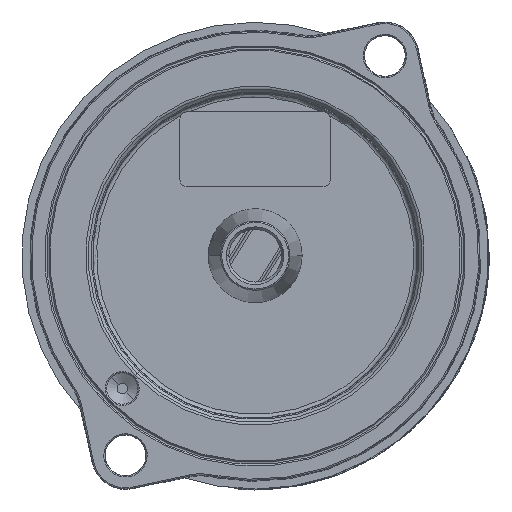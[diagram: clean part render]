
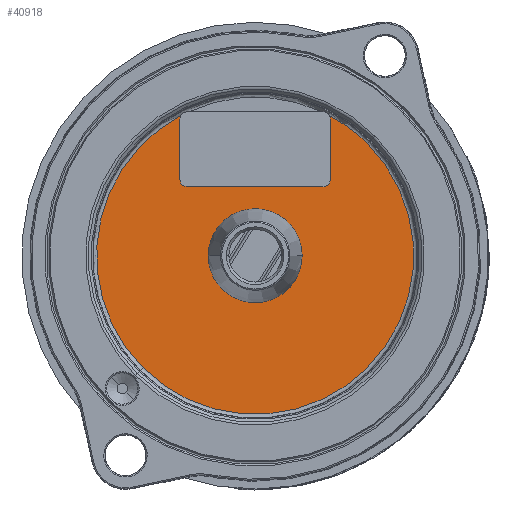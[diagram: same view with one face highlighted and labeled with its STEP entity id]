
A CAD part, front view. The second image highlights one B-rep face of the part: STEP entity #40918.
In plain terms, the highlighted planar face has unit normal (0, -1, 0).
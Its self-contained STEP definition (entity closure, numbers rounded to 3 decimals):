
#64=CARTESIAN_POINT('',(0.,-3.25,0.));
#65=DIRECTION('',(0.,1.,0.));
#66=DIRECTION('',(-1.,0.,0.));
#67=AXIS2_PLACEMENT_3D('',#64,#65,#66);
#69=DIRECTION('',(0.,0.,1.));
#70=VECTOR('',#69,4.8);
#71=CARTESIAN_POINT('',(-6.,-3.25,6.1));
#72=LINE('',#71,#70);
#73=CARTESIAN_POINT('',(-5.4,-3.25,6.1));
#74=DIRECTION('',(0.,-1.,0.));
#75=DIRECTION('',(-1.,0.,0.));
#76=AXIS2_PLACEMENT_3D('',#73,#74,#75);
#78=DIRECTION('',(-1.,0.,0.));
#79=VECTOR('',#78,10.8);
#80=CARTESIAN_POINT('',(5.4,-3.25,5.5));
#81=LINE('',#80,#79);
#82=CARTESIAN_POINT('',(5.4,-3.25,6.1));
#83=DIRECTION('',(0.,-1.,0.));
#84=DIRECTION('',(0.,0.,-1.));
#85=AXIS2_PLACEMENT_3D('',#82,#83,#84);
#87=DIRECTION('',(0.,0.,-1.));
#88=VECTOR('',#87,4.8);
#89=CARTESIAN_POINT('',(6.,-3.25,10.9));
#90=LINE('',#89,#88);
#91=CARTESIAN_POINT('',(5.4,-3.25,10.9));
#92=DIRECTION('',(0.,-1.,0.));
#93=DIRECTION('',(1.,0.,0.));
#94=AXIS2_PLACEMENT_3D('',#91,#92,#93);
#96=CARTESIAN_POINT('',(0.,-3.25,
0.));
#97=DIRECTION('',(0.,-1.,0.));
#98=DIRECTION('',(0.707,0.,0.707));
#99=AXIS2_PLACEMENT_3D('',#96,#97,#98);
#101=CARTESIAN_POINT('',(0.,-3.25,
0.));
#102=DIRECTION('',(0.,-1.,0.));
#103=DIRECTION('',(-0.707,0.,-0.707));
#104=AXIS2_PLACEMENT_3D('',#101,#102,#103);
#106=CARTESIAN_POINT('',(0.,-3.25,
0.));
#107=DIRECTION('',(0.,-1.,0.));
#108=DIRECTION('',(-0.469,0.,0.883));
#109=AXIS2_PLACEMENT_3D('',#106,#107,#108);
#111=CARTESIAN_POINT('',(-5.4,-3.25,10.9));
#112=DIRECTION('',(0.,-1.,0.));
#113=DIRECTION('',(-0.884,0.,0.468));
#114=AXIS2_PLACEMENT_3D('',#111,#112,#113);
#29068=CARTESIAN_POINT('',(0.,-3.25,0.));
#29069=DIRECTION('',(0.,1.,0.));
#29070=DIRECTION('',(1.,0.,0.));
#29071=AXIS2_PLACEMENT_3D('',#29068,#29069,#29070);
#38336=CARTESIAN_POINT('',(-8.95,-3.25,
-8.949));
#38337=CARTESIAN_POINT('',(8.95,-3.25,
8.949));
#38338=VERTEX_POINT('',#38336);
#38339=VERTEX_POINT('',#38337);
#38470=CARTESIAN_POINT('',(-3.75,-3.25,0.));
#38471=CARTESIAN_POINT('',(3.75,-3.25,0.));
#38472=VERTEX_POINT('',#38470);
#38473=VERTEX_POINT('',#38471);
#40186=CARTESIAN_POINT('',(-6.,-3.25,
6.1));
#40187=CARTESIAN_POINT('',(-6.,-3.25,
10.9));
#40188=VERTEX_POINT('',#40186);
#40189=VERTEX_POINT('',#40187);
#40194=CARTESIAN_POINT('',(6.,-3.25,
10.9));
#40195=CARTESIAN_POINT('',(6.,-3.25,
6.1));
#40196=VERTEX_POINT('',#40194);
#40197=VERTEX_POINT('',#40195);
#40198=CARTESIAN_POINT('',(5.4,-3.25,
5.5));
#40199=CARTESIAN_POINT('',(-5.4,-3.25,
5.5));
#40200=VERTEX_POINT('',#40198);
#40201=VERTEX_POINT('',#40199);
#40202=CARTESIAN_POINT('',(-5.93,-3.25,
11.181));
#40203=VERTEX_POINT('',#40202);
#40204=CARTESIAN_POINT('',(5.93,-3.25,
11.181));
#40205=VERTEX_POINT('',#40204);
#40886=CARTESIAN_POINT('',(0.,-3.25,
0.));
#40887=DIRECTION('',(0.,-1.,0.));
#40888=DIRECTION('',(-0.707,0.,-0.707));
#40889=AXIS2_PLACEMENT_3D('',#40886,#40887,#40888);
#40890=PLANE('',#40889);
#40892=ORIENTED_EDGE('',*,*,#40891,.F.);
#40894=ORIENTED_EDGE('',*,*,#40893,.T.);
#40896=ORIENTED_EDGE('',*,*,#40895,.F.);
#40898=ORIENTED_EDGE('',*,*,#40897,.T.);
#40900=ORIENTED_EDGE('',*,*,#40899,.F.);
#40902=ORIENTED_EDGE('',*,*,#40901,.T.);
#40904=ORIENTED_EDGE('',*,*,#40903,.F.);
#40906=ORIENTED_EDGE('',*,*,#40905,.F.);
#40908=ORIENTED_EDGE('',*,*,#40907,.F.);
#40910=ORIENTED_EDGE('',*,*,#40909,.T.);
#40911=EDGE_LOOP('',(#40892,#40894,#40896,#40898,#40900,#40902,#40904,#40906,
#40908,#40910));
#40912=FACE_OUTER_BOUND('',#40911,.F.);
#40913=ORIENTED_EDGE('',*,*,#40868,.F.);
#40915=ORIENTED_EDGE('',*,*,#40914,.F.);
#40916=EDGE_LOOP('',(#40913,#40915));
#40917=FACE_BOUND('',#40916,.F.);
#68=CIRCLE('',#67,3.75);
#77=CIRCLE('',#76,0.6);
#86=CIRCLE('',#85,0.6);
#95=CIRCLE('',#94,0.6);
#100=CIRCLE('',#99,12.656);
#105=CIRCLE('',#104,12.656);
#110=CIRCLE('',#109,12.656);
#115=CIRCLE('',#114,0.6);
#29072=CIRCLE('',#29071,3.75);
#40868=EDGE_CURVE('',#38472,#38473,#68,.T.);
#40891=EDGE_CURVE('',#40188,#40189,#72,.T.);
#40893=EDGE_CURVE('',#40188,#40201,#77,.T.);
#40895=EDGE_CURVE('',#40200,#40201,#81,.T.);
#40897=EDGE_CURVE('',#40200,#40197,#86,.T.);
#40899=EDGE_CURVE('',#40196,#40197,#90,.T.);
#40901=EDGE_CURVE('',#40196,#40205,#95,.T.);
#40903=EDGE_CURVE('',#38339,#40205,#100,.T.);
#40905=EDGE_CURVE('',#38338,#38339,#105,.T.);
#40907=EDGE_CURVE('',#40203,#38338,#110,.T.);
#40909=EDGE_CURVE('',#40203,#40189,#115,.T.);
#40914=EDGE_CURVE('',#38473,#38472,#29072,.T.);
#40918=ADVANCED_FACE('',(#40912,#40917),#40890,.T.);
